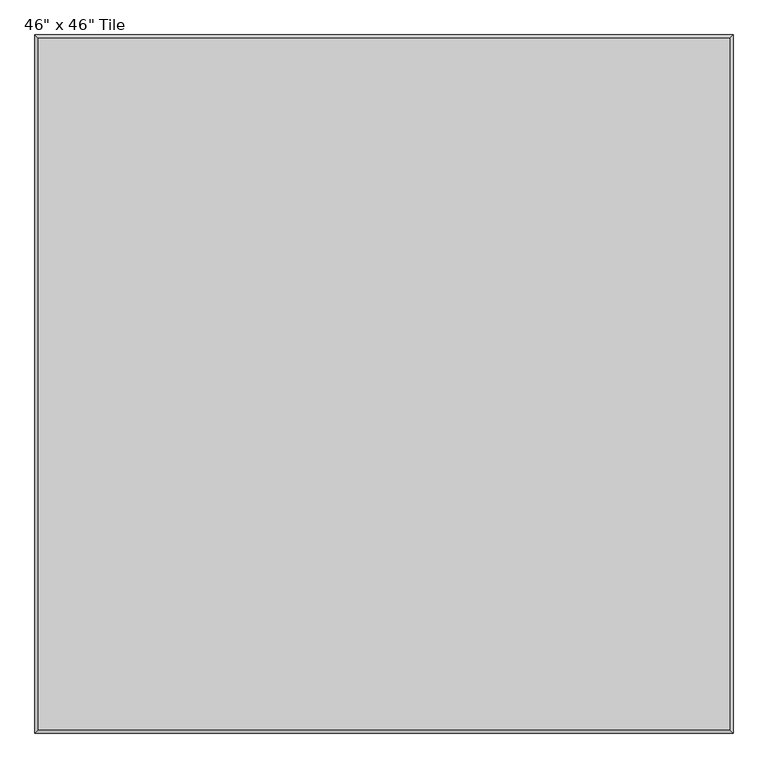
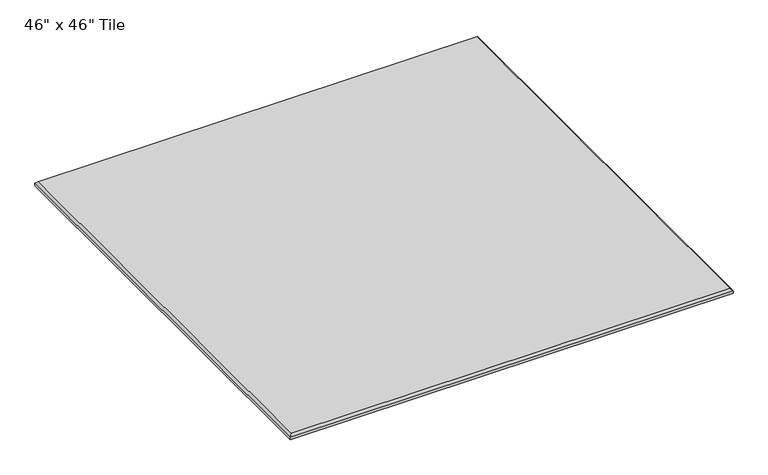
"""IFC4 building model written with IfcOpenShell, lengths in millimetres: proxy geometry."""

from ifc_helpers import new_model, si_unit, origin, place, context, project, spatial, faceted_brep, source, transform, mapped, element, save


def proxy_4511d3c0(model_context):
    return source(origin(), model_context, "Body", "Brep", [
        faceted_brep([(1137.4945313, -578.6945313, 12.0054687), (1137.4945313, 578.6945312, 12.0054687), (-19.8945312, 578.6945312, 12.0054687), (-19.8945312, -578.6945313, 12.0054687), (1143.0, 584.2, 0.0), (1143.0, -584.2, 0.0), (-25.4, -584.2, 0.0), (-25.4, 584.2, 0.0), (-25.4, 584.2, 6.5), (1143.0, 584.2, 6.5), (-25.4, -584.2, 6.5), (1143.0, -584.2, 6.5)], [[[0, 1, 2, 3]], [[4, 5, 6, 7]], [[4, 7, 8, 9]], [[7, 6, 10, 8]], [[6, 5, 11, 10]], [[5, 4, 9, 11]], [[9, 1, 0, 11]], [[1, 9, 8, 2]], [[2, 8, 10, 3]], [[11, 0, 3, 10]]]),
    ])


if __name__ == "__main__":
    model = new_model("IFC4")
    model_context = context("Model", 3, world=origin())
    ifc_project = project(units=[si_unit("LENGTHUNIT", "METRE", prefix="MILLI")], contexts=[model_context])
    site = spatial("IfcSite", under=ifc_project)
    building = spatial("IfcBuilding", under=site)
    placement = place(None, origin())
    proxy_shape = proxy_4511d3c0(model_context)
    element("IfcBuildingElementProxy", 1, Name="Wall-Panel-Kirei-EchoPanel-Echotile_Sync : 46\" x 46\" Tile", ObjectType="Wall-Panel-Kirei-EchoPanel-Echotile_Sync : 46\" x 46\" Tile", at=placement, inside=building, context=model_context, shape_type="MappedRepresentation", body=[
        mapped(proxy_shape, transform((0.0, 0.0, 0.0), x_axis=(1.0, 0.0, 0.0), y_axis=(0.0, 1.0, 0.0), z_axis=(0.0, 0.0, 1.0))),
    ])
    save(model, "model.ifc")
